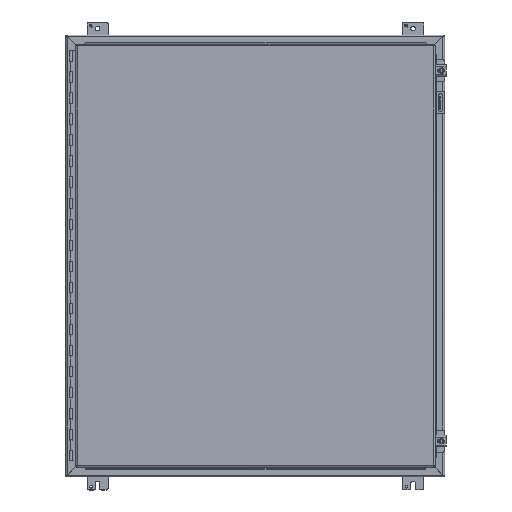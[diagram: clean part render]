
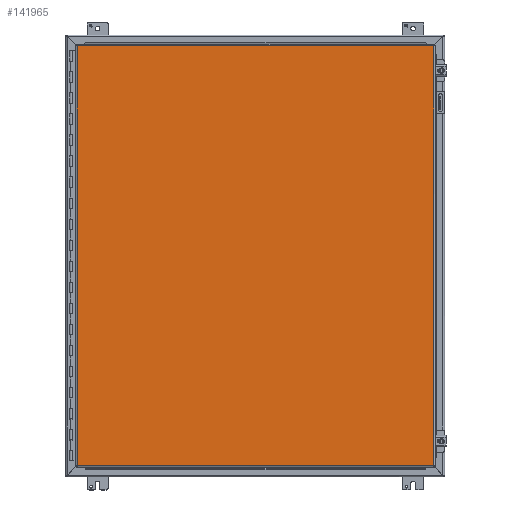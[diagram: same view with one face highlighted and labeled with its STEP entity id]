
A CAD part, top view. The second image highlights one B-rep face of the part: STEP entity #141965.
In plain terms, the highlighted planar face has unit normal (0, 0, 1).
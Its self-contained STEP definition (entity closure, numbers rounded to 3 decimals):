
#70978 = CARTESIAN_POINT ( 'NONE',  ( 16.946, -19.965, 0.072 ) ) ;
#70980 = CARTESIAN_POINT ( 'NONE',  ( -16.946, -19.965, 0.072 ) ) ;
#70981 = DIRECTION ( 'NONE',  ( 1., 0., 0. ) ) ;
#70983 = VECTOR ( 'NONE', #70981, 39.37 ) ;
#70985 = CARTESIAN_POINT ( 'NONE',  ( -17.001, -19.965, 0.072 ) ) ;
#70989 = DIRECTION ( 'NONE',  ( 1., 0., 0. ) ) ;
#70991 = DIRECTION ( 'NONE',  ( 0., 0., 1. ) ) ;
#70993 = CARTESIAN_POINT ( 'NONE',  ( -17.078, -20.097, 0.072 ) ) ;
#70995 = LINE ( 'NONE', #70985, #70983 ) ;
#70999 = AXIS2_PLACEMENT_3D ( 'NONE', #70993, #70991, #70989 ) ;
#71001 = PLANE ( 'NONE',  #70999 ) ;
#71002 = FACE_OUTER_BOUND ( 'NONE', #141968, .T. ) ;
#71531 = VECTOR ( 'NONE', #71662, 39.37 ) ;
#71532 = CARTESIAN_POINT ( 'NONE',  ( -16.946, 20.02, 0.072 ) ) ;
#71533 = LINE ( 'NONE', #71532, #71531 ) ;
#71537 = CARTESIAN_POINT ( 'NONE',  ( -16.946, 19.965, 0.072 ) ) ;
#71539 = DIRECTION ( 'NONE',  ( -1., 0., 0. ) ) ;
#71541 = VECTOR ( 'NONE', #71539, 39.37 ) ;
#71542 = CARTESIAN_POINT ( 'NONE',  ( 17.001, 19.965, 0.072 ) ) ;
#71544 = LINE ( 'NONE', #71542, #71541 ) ;
#71573 = CARTESIAN_POINT ( 'NONE',  ( 16.946, 19.965, 0.072 ) ) ;
#71575 = DIRECTION ( 'NONE',  ( 0., 1., 0. ) ) ;
#71577 = VECTOR ( 'NONE', #71575, 39.37 ) ;
#71579 = CARTESIAN_POINT ( 'NONE',  ( 16.946, -20.02, 0.072 ) ) ;
#71580 = LINE ( 'NONE', #71579, #71577 ) ;
#71662 = DIRECTION ( 'NONE',  ( 0., -1., 0. ) ) ;
#141965 = ADVANCED_FACE ( 'NONE', ( #71002 ), #71001, .T. ) ;
#141968 = EDGE_LOOP ( 'NONE', ( #141969, #142056, #142062, #142066 ) ) ;
#141969 = ORIENTED_EDGE ( 'NONE', *, *, #141971, .T. ) ;
#141971 = EDGE_CURVE ( 'NONE', #141974, #141976, #70995, .T. ) ;
#141974 = VERTEX_POINT ( 'NONE', #70980 ) ;
#141976 = VERTEX_POINT ( 'NONE', #70978 ) ;
#142056 = ORIENTED_EDGE ( 'NONE', *, *, #142058, .T. ) ;
#142058 = EDGE_CURVE ( 'NONE', #141976, #142060, #71580, .T. ) ;
#142060 = VERTEX_POINT ( 'NONE', #71573 ) ;
#142062 = ORIENTED_EDGE ( 'NONE', *, *, #142063, .T. ) ;
#142063 = EDGE_CURVE ( 'NONE', #142060, #142064, #71544, .T. ) ;
#142064 = VERTEX_POINT ( 'NONE', #71537 ) ;
#142066 = ORIENTED_EDGE ( 'NONE', *, *, #142068, .T. ) ;
#142068 = EDGE_CURVE ( 'NONE', #142064, #141974, #71533, .T. ) ;
